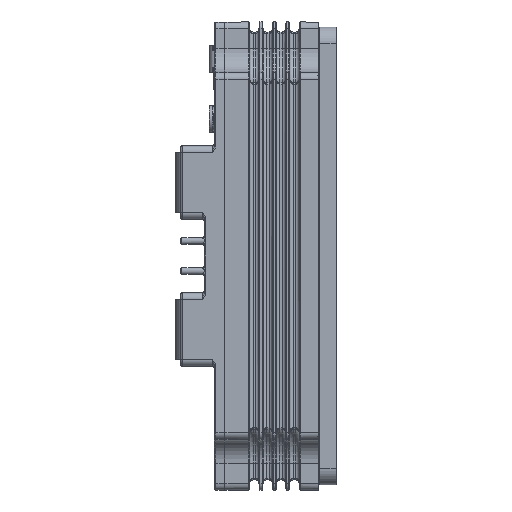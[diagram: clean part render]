
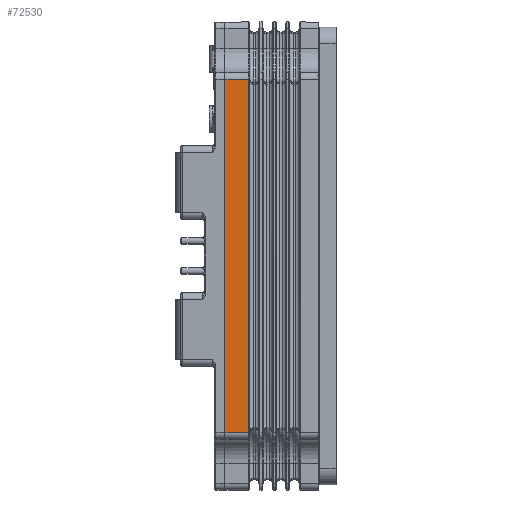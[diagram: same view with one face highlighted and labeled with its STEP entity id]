
A CAD part, left-side view. The second image highlights one B-rep face of the part: STEP entity #72530.
In plain terms, the highlighted planar face has unit normal (-1, 0, 0).
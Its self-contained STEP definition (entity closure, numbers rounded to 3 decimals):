
#30131 = VECTOR ( 'NONE', #30219, 1000. ) ;
#30132 = CARTESIAN_POINT ( 'NONE',  ( -95., 26.19, 70. ) ) ;
#30141 = LINE ( 'NONE', #30132, #30131 ) ;
#30142 = CARTESIAN_POINT ( 'NONE',  ( -95., 26.19, 52.9 ) ) ;
#30219 = DIRECTION ( 'NONE',  ( 0., 0., -1. ) ) ;
#30479 = CARTESIAN_POINT ( 'NONE',  ( -95., 26.19, -52.9 ) ) ;
#36091 = LINE ( 'NONE', #36132, #36130 ) ;
#36129 = DIRECTION ( 'NONE',  ( 0., -1., 0. ) ) ;
#36130 = VECTOR ( 'NONE', #36129, 1000. ) ;
#36132 = CARTESIAN_POINT ( 'NONE',  ( -95., 5.4, -52.9 ) ) ;
#36560 = CARTESIAN_POINT ( 'NONE',  ( -95., 33.3, -52.9 ) ) ;
#36604 = FACE_OUTER_BOUND ( 'NONE', #72473, .T. ) ;
#36627 = AXIS2_PLACEMENT_3D ( 'NONE', #36638, #36689, #36687 ) ;
#36638 = CARTESIAN_POINT ( 'NONE',  ( -95., 5.4, 54.9 ) ) ;
#36673 = CARTESIAN_POINT ( 'NONE',  ( -95., 33.3, 52.9 ) ) ;
#36674 = DIRECTION ( 'NONE',  ( 0., 1., 0. ) ) ;
#36675 = VECTOR ( 'NONE', #36674, 1000. ) ;
#36687 = DIRECTION ( 'NONE',  ( 0., 0., 1. ) ) ;
#36689 = DIRECTION ( 'NONE',  ( -1., 0., 0. ) ) ;
#36701 = PLANE ( 'NONE',  #36627 ) ;
#36721 = CARTESIAN_POINT ( 'NONE',  ( -95., 5.4, 52.9 ) ) ;
#36722 = LINE ( 'NONE', #36721, #36675 ) ;
#36770 = DIRECTION ( 'NONE',  ( 0., 0., -1. ) ) ;
#36772 = VECTOR ( 'NONE', #36770, 1000. ) ;
#36774 = CARTESIAN_POINT ( 'NONE',  ( -95., 33.3, 54.9 ) ) ;
#36776 = LINE ( 'NONE', #36774, #36772 ) ;
#70149 = EDGE_CURVE ( 'NONE', #70170, #70258, #30141, .T. ) ;
#70170 = VERTEX_POINT ( 'NONE', #30142 ) ;
#70258 = VERTEX_POINT ( 'NONE', #30479 ) ;
#72337 = EDGE_CURVE ( 'NONE', #72486, #70258, #36091, .T. ) ;
#72473 = EDGE_LOOP ( 'NONE', ( #72565, #72531, #72546, #72535 ) ) ;
#72486 = VERTEX_POINT ( 'NONE', #36560 ) ;
#72530 = ADVANCED_FACE ( 'NONE', ( #36604 ), #36701, .T. ) ;
#72531 = ORIENTED_EDGE ( 'NONE', *, *, #70149, .F. ) ;
#72535 = ORIENTED_EDGE ( 'NONE', *, *, #72548, .T. ) ;
#72543 = EDGE_CURVE ( 'NONE', #70170, #72545, #36722, .T. ) ;
#72545 = VERTEX_POINT ( 'NONE', #36673 ) ;
#72546 = ORIENTED_EDGE ( 'NONE', *, *, #72543, .T. ) ;
#72548 = EDGE_CURVE ( 'NONE', #72545, #72486, #36776, .T. ) ;
#72565 = ORIENTED_EDGE ( 'NONE', *, *, #72337, .T. ) ;
